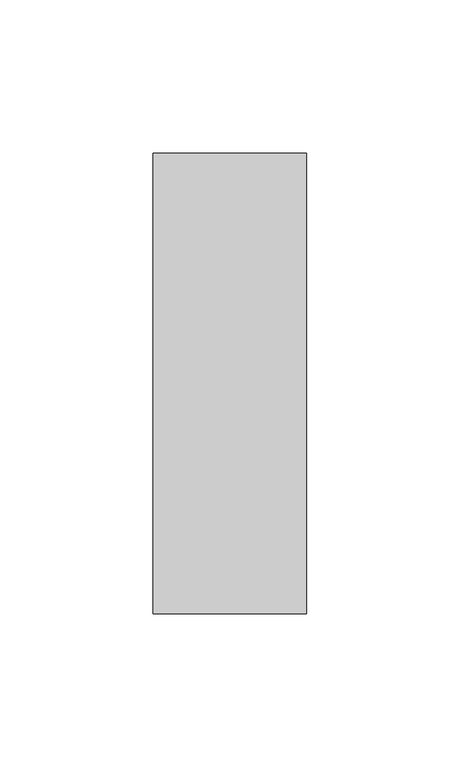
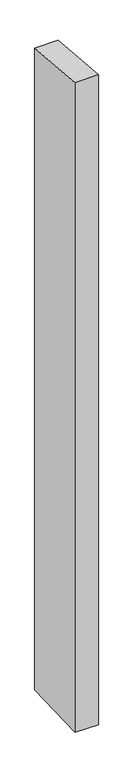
"""IFC4 building model written with IfcOpenShell, lengths in millimetres: member geometry, Прямоугольный импост : 50 x 150 мм."""

from ifc_helpers import new_model, si_unit, origin, place, context, project, spatial, faceted_brep, source, transform, mapped, element, save


def member_2e45bd85(model_context):
    return source(origin(), model_context, "Body", "Brep", [
        faceted_brep([(-25.0, 75.0, -6.1664786), (25.0, 75.0, -5.8866004), (25.0, 75.0, -1463.7973204), (-25.0, 75.0, -1463.5441263), (-25.0, -75.0, 5.8866004), (-25.0, -75.0, -1470.022182), (25.0, -75.0, 6.1664786), (25.0, -75.0, -1470.2753761)], [[[0, 1, 2, 3]], [[4, 0, 3, 5]], [[6, 4, 5, 7]], [[1, 6, 7, 2]], [[1, 0, 4, 6]], [[2, 7, 5, 3]]]),
    ])


if __name__ == "__main__":
    model = new_model("IFC4")
    model_context = context("Model", 3, world=origin())
    ifc_project = project(units=[si_unit("LENGTHUNIT", "METRE", prefix="MILLI")], contexts=[model_context])
    site = spatial("IfcSite", under=ifc_project)
    building = spatial("IfcBuilding", under=site)
    placement = place(None, origin())
    member_shape = member_2e45bd85(model_context)
    element("IfcMember", 1, ObjectType="Прямоугольный импост : 50 x 150 мм", at=placement, inside=building, context=model_context, shape_type="MappedRepresentation", body=[
        mapped(member_shape, transform((0.0, 0.0, 0.0), x_axis=(1.0, 0.0, 0.0), y_axis=(0.0, 1.0, 0.0), z_axis=(0.0, 0.0, 1.0))),
    ])
    save(model, "model.ifc")
